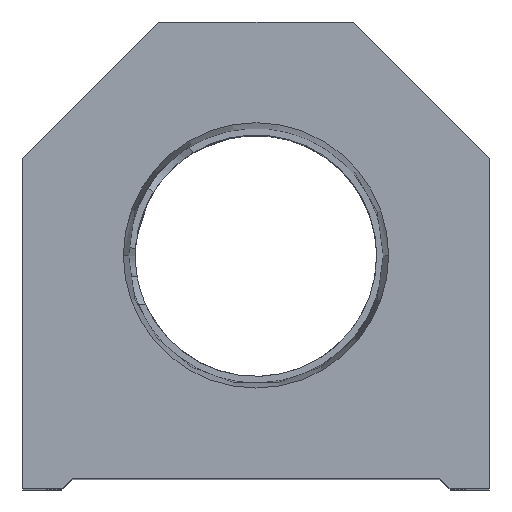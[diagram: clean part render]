
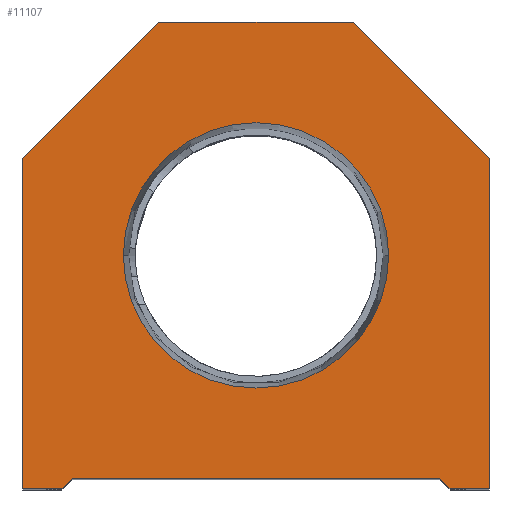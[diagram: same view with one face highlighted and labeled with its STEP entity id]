
A CAD part, top view. The second image highlights one B-rep face of the part: STEP entity #11107.
In plain terms, the highlighted planar face has unit normal (0, 0, 1).
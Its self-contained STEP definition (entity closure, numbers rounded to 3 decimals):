
#23 = VERTEX_POINT ( 'NONE', #8350 ) ;
#276 = ORIENTED_EDGE ( 'NONE', *, *, #9151, .T. ) ;
#397 = CIRCLE ( 'NONE', #7496, 12.647 ) ;
#429 = LINE ( 'NONE', #621, #10246 ) ;
#439 = CARTESIAN_POINT ( 'NONE',  ( 0., 22.25, 0. ) ) ;
#555 = EDGE_CURVE ( 'NONE', #5611, #6504, #429, .T. ) ;
#621 = CARTESIAN_POINT ( 'NONE',  ( 22.25, 0., 0. ) ) ;
#643 = CARTESIAN_POINT ( 'NONE',  ( -18.5, 0., 0. ) ) ;
#850 = ORIENTED_EDGE ( 'NONE', *, *, #3010, .T. ) ;
#907 = CARTESIAN_POINT ( 'NONE',  ( 17.5, 0., 0. ) ) ;
#1050 = EDGE_LOOP ( 'NONE', ( #6651, #2890 ) ) ;
#1271 = CARTESIAN_POINT ( 'NONE',  ( 22.25, 0., 0. ) ) ;
#1374 = VERTEX_POINT ( 'NONE', #2610 ) ;
#1644 = AXIS2_PLACEMENT_3D ( 'NONE', #10279, #9325, #9263 ) ;
#1710 = CARTESIAN_POINT ( 'NONE',  ( 0., 22.25, 0. ) ) ;
#1730 = DIRECTION ( 'NONE',  ( 1., 0., 0. ) ) ;
#1828 = VECTOR ( 'NONE', #7345, 1000. ) ;
#2272 = DIRECTION ( 'NONE',  ( 1., 0., 0. ) ) ;
#2276 = DIRECTION ( 'NONE',  ( 1., 0., 0. ) ) ;
#2451 = LINE ( 'NONE', #3465, #1828 ) ;
#2475 = DIRECTION ( 'NONE',  ( 0.707, 0.707, 0. ) ) ;
#2537 = DIRECTION ( 'NONE',  ( 1., 0., 0. ) ) ;
#2603 = VECTOR ( 'NONE', #7434, 1000. ) ;
#2610 = CARTESIAN_POINT ( 'NONE',  ( -17.5, 1., 0. ) ) ;
#2759 = CARTESIAN_POINT ( 'NONE',  ( -9.25, 44.5, 0. ) ) ;
#2881 = CARTESIAN_POINT ( 'NONE',  ( -22.25, 0., 0. ) ) ;
#2890 = ORIENTED_EDGE ( 'NONE', *, *, #8760, .F. ) ;
#2895 = EDGE_CURVE ( 'NONE', #23, #11298, #7738, .T. ) ;
#3010 = EDGE_CURVE ( 'NONE', #6504, #12307, #4236, .T. ) ;
#3059 = VERTEX_POINT ( 'NONE', #2881 ) ;
#3465 = CARTESIAN_POINT ( 'NONE',  ( -17.5, 1., 0. ) ) ;
#3548 = LINE ( 'NONE', #12183, #2603 ) ;
#3635 = ORIENTED_EDGE ( 'NONE', *, *, #2895, .T. ) ;
#3793 = DIRECTION ( 'NONE',  ( 0.707, -0.707, 0. ) ) ;
#3966 = VECTOR ( 'NONE', #11980, 1000. ) ;
#4042 = ORIENTED_EDGE ( 'NONE', *, *, #9922, .T. ) ;
#4236 = LINE ( 'NONE', #7041, #3966 ) ;
#4442 = CARTESIAN_POINT ( 'NONE',  ( -9.25, 9.25, 0. ) ) ;
#4450 = LINE ( 'NONE', #6359, #8738 ) ;
#4472 = VERTEX_POINT ( 'NONE', #5967 ) ;
#4776 = ORIENTED_EDGE ( 'NONE', *, *, #7561, .T. ) ;
#5259 = CARTESIAN_POINT ( 'NONE',  ( 12.647, 22.25, 0. ) ) ;
#5336 = VERTEX_POINT ( 'NONE', #5467 ) ;
#5388 = PLANE ( 'NONE',  #1644 ) ;
#5467 = CARTESIAN_POINT ( 'NONE',  ( -22.25, 31.5, 0. ) ) ;
#5600 = VECTOR ( 'NONE', #3793, 1000. ) ;
#5611 = VERTEX_POINT ( 'NONE', #1271 ) ;
#5641 = ORIENTED_EDGE ( 'NONE', *, *, #6944, .T. ) ;
#5665 = CARTESIAN_POINT ( 'NONE',  ( 22.25, 31.5, 0. ) ) ;
#5668 = EDGE_CURVE ( 'NONE', #12307, #8331, #8432, .T. ) ;
#5883 = VECTOR ( 'NONE', #1730, 1000. ) ;
#5967 = CARTESIAN_POINT ( 'NONE',  ( -12.647, 22.25, 0. ) ) ;
#6041 = VECTOR ( 'NONE', #2272, 1000. ) ;
#6351 = LINE ( 'NONE', #4442, #12317 ) ;
#6359 = CARTESIAN_POINT ( 'NONE',  ( -22.25, 31.5, 0. ) ) ;
#6504 = VERTEX_POINT ( 'NONE', #5665 ) ;
#6635 = EDGE_CURVE ( 'NONE', #7578, #1374, #6351, .T. ) ;
#6651 = ORIENTED_EDGE ( 'NONE', *, *, #7625, .F. ) ;
#6944 = EDGE_CURVE ( 'NONE', #3059, #7578, #10917, .T. ) ;
#6982 = DIRECTION ( 'NONE',  ( 0., 0., 1. ) ) ;
#7041 = CARTESIAN_POINT ( 'NONE',  ( 22.25, 31.5, 0. ) ) ;
#7276 = CIRCLE ( 'NONE', #10521, 12.647 ) ;
#7345 = DIRECTION ( 'NONE',  ( 1., 0., 0. ) ) ;
#7434 = DIRECTION ( 'NONE',  ( 0., -1., 0. ) ) ;
#7491 = CARTESIAN_POINT ( 'NONE',  ( 9.25, 44.5, 0. ) ) ;
#7493 = ORIENTED_EDGE ( 'NONE', *, *, #10931, .T. ) ;
#7496 = AXIS2_PLACEMENT_3D ( 'NONE', #439, #6982, #2276 ) ;
#7561 = EDGE_CURVE ( 'NONE', #5336, #3059, #3548, .T. ) ;
#7578 = VERTEX_POINT ( 'NONE', #643 ) ;
#7625 = EDGE_CURVE ( 'NONE', #8796, #4472, #7276, .T. ) ;
#7738 = LINE ( 'NONE', #7860, #5600 ) ;
#7860 = CARTESIAN_POINT ( 'NONE',  ( 9.25, 9.25, 0. ) ) ;
#8089 = EDGE_LOOP ( 'NONE', ( #5641, #11847, #276, #3635, #4042, #10000, #850, #12459, #7493, #4776 ) ) ;
#8199 = DIRECTION ( 'NONE',  ( -0.707, -0.707, 0. ) ) ;
#8331 = VERTEX_POINT ( 'NONE', #2759 ) ;
#8350 = CARTESIAN_POINT ( 'NONE',  ( 17.5, 1., 0. ) ) ;
#8432 = LINE ( 'NONE', #7491, #9470 ) ;
#8738 = VECTOR ( 'NONE', #8199, 1000. ) ;
#8760 = EDGE_CURVE ( 'NONE', #4472, #8796, #397, .T. ) ;
#8796 = VERTEX_POINT ( 'NONE', #5259 ) ;
#9151 = EDGE_CURVE ( 'NONE', #1374, #23, #2451, .T. ) ;
#9263 = DIRECTION ( 'NONE',  ( 1., 0., 0. ) ) ;
#9325 = DIRECTION ( 'NONE',  ( 0., 0., 1. ) ) ;
#9445 = CARTESIAN_POINT ( 'NONE',  ( 18.5, 0., 0. ) ) ;
#9470 = VECTOR ( 'NONE', #11421, 1000. ) ;
#9922 = EDGE_CURVE ( 'NONE', #11298, #5611, #10433, .T. ) ;
#10000 = ORIENTED_EDGE ( 'NONE', *, *, #555, .T. ) ;
#10017 = CARTESIAN_POINT ( 'NONE',  ( -17.5, 0., 0. ) ) ;
#10246 = VECTOR ( 'NONE', #12091, 1000. ) ;
#10279 = CARTESIAN_POINT ( 'NONE',  ( 0., 0., 0. ) ) ;
#10433 = LINE ( 'NONE', #907, #5883 ) ;
#10521 = AXIS2_PLACEMENT_3D ( 'NONE', #1710, #11369, #2537 ) ;
#10917 = LINE ( 'NONE', #10017, #6041 ) ;
#10931 = EDGE_CURVE ( 'NONE', #8331, #5336, #4450, .T. ) ;
#11107 = ADVANCED_FACE ( 'NONE', ( #11172, #12107 ), #5388, .T. ) ;
#11172 = FACE_BOUND ( 'NONE', #1050, .T. ) ;
#11298 = VERTEX_POINT ( 'NONE', #9445 ) ;
#11369 = DIRECTION ( 'NONE',  ( 0., 0., 1. ) ) ;
#11421 = DIRECTION ( 'NONE',  ( -1., 0., 0. ) ) ;
#11487 = CARTESIAN_POINT ( 'NONE',  ( 9.25, 44.5, 0. ) ) ;
#11847 = ORIENTED_EDGE ( 'NONE', *, *, #6635, .T. ) ;
#11980 = DIRECTION ( 'NONE',  ( -0.707, 0.707, 0. ) ) ;
#12091 = DIRECTION ( 'NONE',  ( 0., 1., 0. ) ) ;
#12107 = FACE_OUTER_BOUND ( 'NONE', #8089, .T. ) ;
#12183 = CARTESIAN_POINT ( 'NONE',  ( -22.25, 0., 0. ) ) ;
#12307 = VERTEX_POINT ( 'NONE', #11487 ) ;
#12317 = VECTOR ( 'NONE', #2475, 1000. ) ;
#12459 = ORIENTED_EDGE ( 'NONE', *, *, #5668, .T. ) ;
